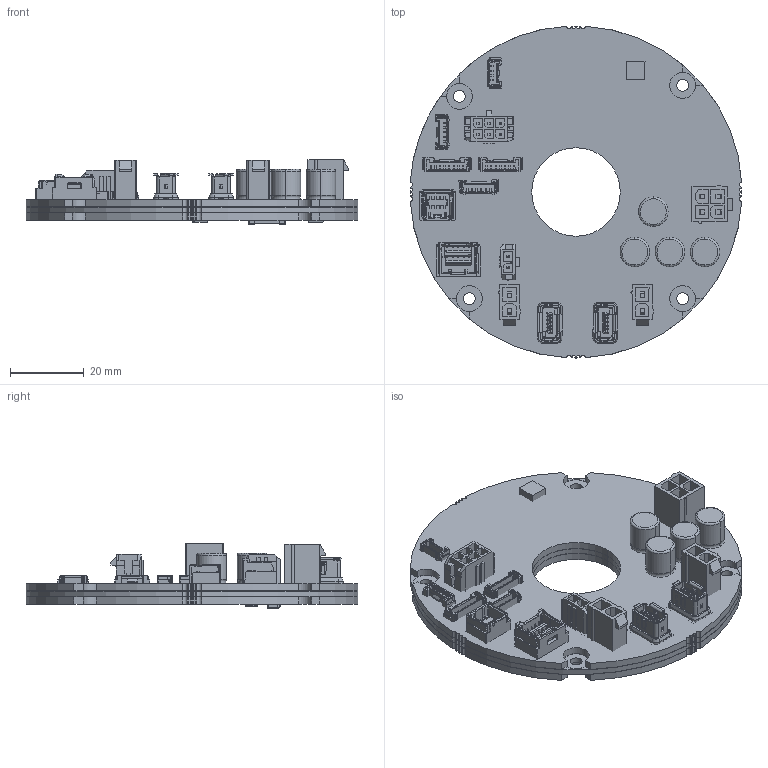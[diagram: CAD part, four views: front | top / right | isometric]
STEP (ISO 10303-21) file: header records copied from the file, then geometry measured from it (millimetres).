
FILE_DESCRIPTION((''),'2;1');
FILE_NAME('EPOS4_DISK_6010_709859_CAN_SSC_ASM','2022-01-10T14:41:01',('MMAGODEM'),(''),'CREO PARAMETRIC BY PTC INC, 2020342','CREO PARAMETRIC BY PTC INC, 2020342','');
FILE_SCHEMA(('CONFIG_CONTROL_DESIGN','SHAPE_APPEARANCE_LAYERS_GROUPS'));
Products named in the file (61): EPOS4_DISK_6010_ETHERCAT_PCB_AF1; EPOS4_DISK_6010_ETHERCAT_LOETSB_AF2; EPOS4_DISK_6010_ETHERCAT_LOETST_AF3; 8_SIZE_CODE_F00; PRT0004; 5054330871_AF1; 5055680571_3_1; 5055680571_3_ASM; 5055680571_ASM; 5055680671_3_1_2_1; 5055680671_3_1_2_ASM; 5055680671__ASM; IC; DROSSEL_1; 1206_C; SOD-123F; SO-8EP; QFN50P900X900X100_HS-65N; QFN50P500X500X60-32N_ST_UFQFPN3; QFN50P700X700X100-48N_MPA; BSC040N08NS5; LED_BASE; LED_GREEN; LED0603_GREEN_ASM; LED_RED; LED0603_RED_ASM; LQH2HPN220MJR; PRT0006; PESD2IVN24-UX; DROSSEL_KL; A6H-6102; 436500215; 39281023--3DMODEL-STEP-390490; 5055680871_3_1_2_1; 5055680871_3_1_2_ASM; MOLEX-505568-0871_ASM; 5055680771_3_1_2_1; 5055680771_3_1_2_ASM; MOLEX-505568-0771_ASM; 503154-1090_ASM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
Assembly tree (74 placements, depth 4):
  EPOS4_DISK_6010_709859_CAN_SSC_ASM
    EPOS4_DISK_6010_ETHERCAT_PCB_AF1
    EPOS4_DISK_6010_ETHERCAT_LOETSB_AF2
    EPOS4_DISK_6010_ETHERCAT_LOETST_AF3
    8_SIZE_CODE_F00  x3
    PRT0004
    5054330871_AF1
    5055680571_ASM
      5055680571_3_ASM
        5055680571_3_1
    5055680671__ASM
      5055680671_3_1_2_ASM
        5055680671_3_1_2_1
    IC
    DROSSEL_1
    1206_C  x2
    SOD-123F
    SO-8EP
    QFN50P900X900X100_HS-65N
    QFN50P500X500X60-32N_ST_UFQFPN3  x2
    QFN50P700X700X100-48N_MPA
    BSC040N08NS5  x6
    LED0603_GREEN_ASM
      LED_BASE
      LED_GREEN
    LED0603_RED_ASM
      LED_BASE
      LED_RED
    LQH2HPN220MJR
    PRT0006  x2
    PESD2IVN24-UX  x2
    DROSSEL_KL
    A6H-6102
    436500215
    39281023--3DMODEL-STEP-390490  x2
    MOLEX-505568-0871_ASM
      5055680871_3_1_2_ASM
        5055680871_3_1_2_1
    MOLEX-505568-0771_ASM
      5055680771_3_1_2_ASM
        5055680771_3_1_2_1
    503154-1090_ASM
    39281043_TIN
    430450618_TIN
    MOLEX-505568-0471_ASM
      5055680471_3_1_2_ASM
        5055680471_3_1_2_1
    EXCLUSION_ZONE_TOP_AF2
    EXCLUSION_ZONE_BOT_AF1
    SMBJ60A
    0456025_ER_ASM
      0463020_ER_ASM
        BOSS-EXTRUDE2
        MIRROR2
        FILLET1
    SMA60_ASM
      SMBJ16A_ASM
        CUT-EXTRUDE2
        MIRROR1
        BOSS-EXTRUDE3
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Bounding box: 90 x 90 x 17.52 mm (x, y, z)
Volume: 38978 mm3; surface area: 73502.1 mm2
Topology: 67 solids, 70 shells, 7404 faces, 20686 edges, 13495 vertices
Faces by surface type: plane 5455, cylinder 1333, extrusion 422, sphere 68, cone 62, torus 56, bspline 8
Entity records: 267615 total; most frequent: CARTESIAN_POINT 39429, ORIENTED_EDGE 33892, DIRECTION 29712, PRESENTATION_STYLE_ASSIGNMENT 20079, STYLED_ITEM 18721, CURVE_STYLE 17368, EDGE_CURVE 16946, VECTOR 14406
